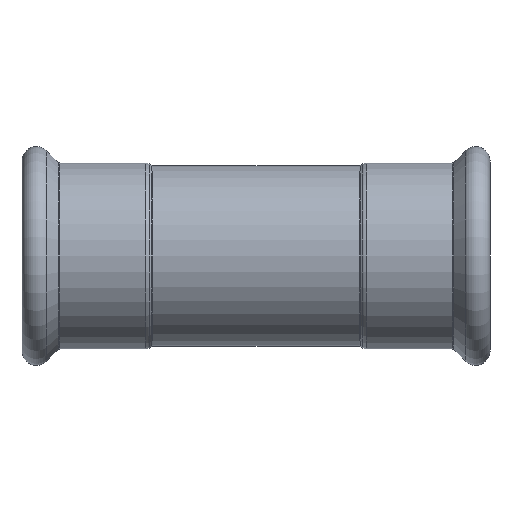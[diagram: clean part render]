
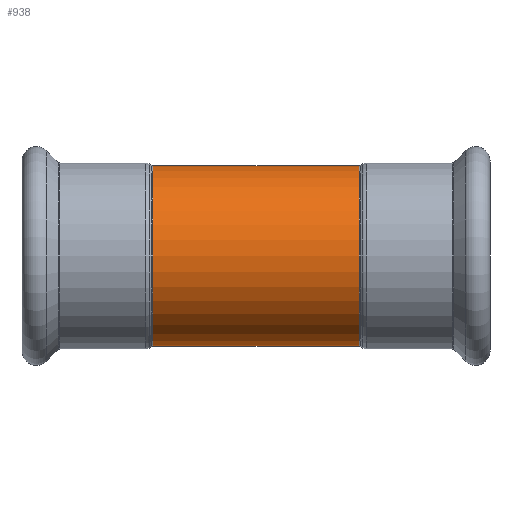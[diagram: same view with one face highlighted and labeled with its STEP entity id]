
A CAD part, front view. The second image highlights one B-rep face of the part: STEP entity #938.
In plain terms, the highlighted cylindrical face has radius 22 mm (diameter 44 mm), a partial arc.
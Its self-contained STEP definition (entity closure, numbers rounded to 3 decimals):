
#38 = ORIENTED_EDGE ( 'NONE', *, *, #3836, .F. ) ;
#52 = EDGE_CURVE ( 'NONE', #1699, #1340, #1233, .T. ) ;
#299 = CARTESIAN_POINT ( 'NONE',  ( 27.146, 0., 22. ) ) ;
#435 = ORIENTED_EDGE ( 'NONE', *, *, #3831, .T. ) ;
#577 = AXIS2_PLACEMENT_3D ( 'NONE', #4113, #3491, #1529 ) ;
#807 = AXIS2_PLACEMENT_3D ( 'NONE', #3441, #825, #4074 ) ;
#825 = DIRECTION ( 'NONE',  ( -1., 0., 0. ) ) ;
#938 = ADVANCED_FACE ( 'NONE', ( #2660 ), #2346, .T. ) ;
#989 = EDGE_LOOP ( 'NONE', ( #38, #1155, #435, #3329 ) ) ;
#1004 = VERTEX_POINT ( 'NONE', #1275 ) ;
#1076 = VECTOR ( 'NONE', #2924, 1000. ) ;
#1125 = DIRECTION ( 'NONE',  ( 0., 0., 1. ) ) ;
#1155 = ORIENTED_EDGE ( 'NONE', *, *, #52, .T. ) ;
#1233 = CIRCLE ( 'NONE', #577, 22. ) ;
#1275 = CARTESIAN_POINT ( 'NONE',  ( -25.154, 0., 22. ) ) ;
#1340 = VERTEX_POINT ( 'NONE', #2173 ) ;
#1529 = DIRECTION ( 'NONE',  ( 0., 0., 1. ) ) ;
#1699 = VERTEX_POINT ( 'NONE', #3961 ) ;
#1773 = DIRECTION ( 'NONE',  ( -1., 0., 0. ) ) ;
#1991 = VERTEX_POINT ( 'NONE', #2656 ) ;
#2173 = CARTESIAN_POINT ( 'NONE',  ( 25.154, 0., 22. ) ) ;
#2346 = CYLINDRICAL_SURFACE ( 'NONE', #2382, 22. ) ;
#2379 = CIRCLE ( 'NONE', #807, 22. ) ;
#2382 = AXIS2_PLACEMENT_3D ( 'NONE', #3768, #1773, #1125 ) ;
#2540 = LINE ( 'NONE', #299, #3426 ) ;
#2588 = CARTESIAN_POINT ( 'NONE',  ( 27.146, 0., -22. ) ) ;
#2656 = CARTESIAN_POINT ( 'NONE',  ( -25.154, 0., -22. ) ) ;
#2660 = FACE_OUTER_BOUND ( 'NONE', #989, .T. ) ;
#2818 = EDGE_CURVE ( 'NONE', #1991, #1004, #2379, .T. ) ;
#2924 = DIRECTION ( 'NONE',  ( -1., 0., 0. ) ) ;
#3227 = DIRECTION ( 'NONE',  ( -1., 0., 0. ) ) ;
#3329 = ORIENTED_EDGE ( 'NONE', *, *, #2818, .F. ) ;
#3426 = VECTOR ( 'NONE', #3227, 1000. ) ;
#3441 = CARTESIAN_POINT ( 'NONE',  ( -25.154, 0., 0. ) ) ;
#3491 = DIRECTION ( 'NONE',  ( -1., 0., 0. ) ) ;
#3768 = CARTESIAN_POINT ( 'NONE',  ( 27.146, 0., 0. ) ) ;
#3831 = EDGE_CURVE ( 'NONE', #1340, #1004, #2540, .T. ) ;
#3836 = EDGE_CURVE ( 'NONE', #1699, #1991, #3896, .T. ) ;
#3896 = LINE ( 'NONE', #2588, #1076 ) ;
#3961 = CARTESIAN_POINT ( 'NONE',  ( 25.154, 0., -22. ) ) ;
#4074 = DIRECTION ( 'NONE',  ( 0., 0., 1. ) ) ;
#4113 = CARTESIAN_POINT ( 'NONE',  ( 25.154, 0., 0. ) ) ;
